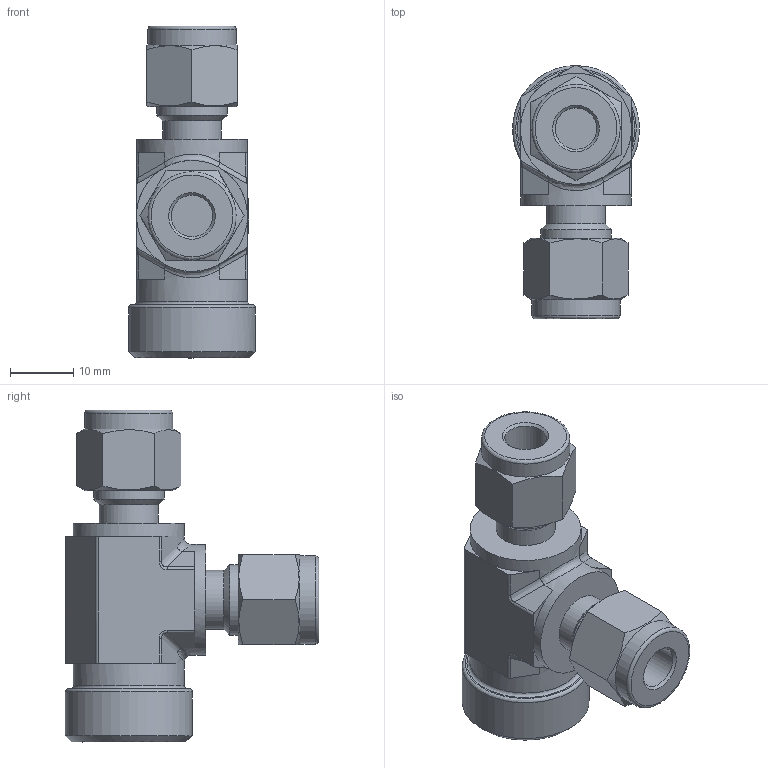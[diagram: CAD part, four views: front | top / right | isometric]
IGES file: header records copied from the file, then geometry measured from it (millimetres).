
Global section: file name: SFRT-4-4N; native system: Autodesk Inventor 2016; preprocessor: unknown; author: DESIGNPC2; date: 20151031.102401; units: millimetre
Bounding box: 20 x 39.97 x 52.34 mm (x, y, z)
Volume: 12185.5 mm3; surface area: 6138.4 mm2
Topology: 1 solids, 1 shells, 113 faces, 287 edges, 188 vertices
Faces by surface type: bspline 113
